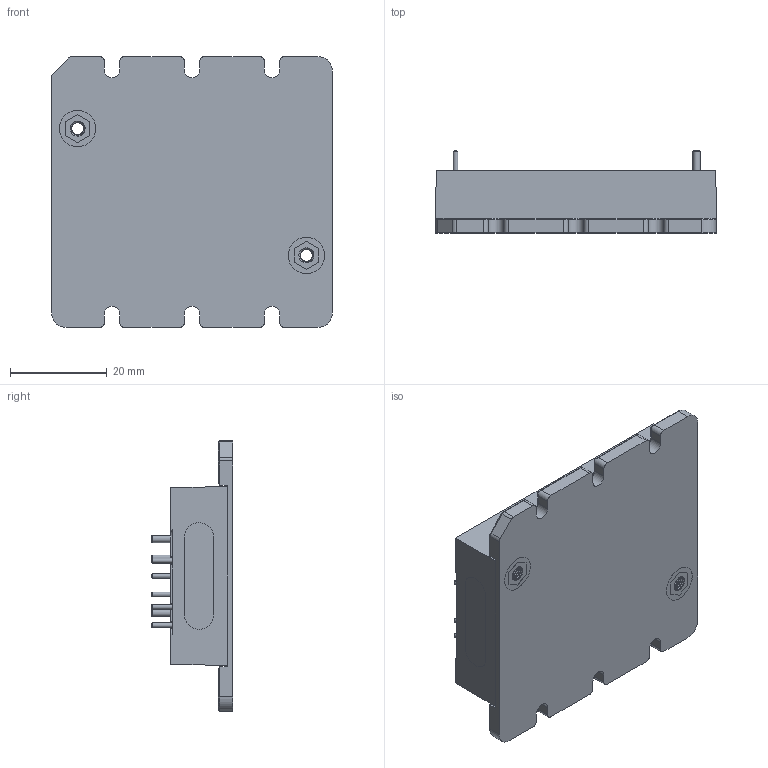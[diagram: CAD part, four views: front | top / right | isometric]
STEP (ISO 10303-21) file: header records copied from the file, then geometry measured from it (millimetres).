
FILE_DESCRIPTION (( 'STEP AP203' ), '1' );
FILE_NAME ('CQB75-300S-F 2024.11.14.STEP', '2024-11-14T02:54:09', ( '' ), ( '' ), 'SwSTEP 2.0', 'SolidWorks 2020', '' );
FILE_SCHEMA (( 'CONFIG_CONTROL_DESIGN' ));
Length unit declared in the file: millimetre
Products named in the file (1): CQB75-300S-F 2024.11.14
Bounding box: 57.9 x 16.9 x 55.88 mm (x, y, z)
Volume: 29820.6 mm3; surface area: 9892.1 mm2
Topology: 1 solids, 3 shells, 554 faces, 1418 edges, 936 vertices
Faces by surface type: plane 347, bspline 127, cylinder 55, cone 25
Full cylindrical faces by diameter (mm): 1 x6, 1.15 x6, 1.5 x2, 1.65 x2, 4 x2, 4.3 x4, 4.7 x2, 7.5 x2
Entity records: 27856 total; most frequent: CARTESIAN_POINT 15410, ORIENTED_EDGE 2732, DIRECTION 2063, EDGE_CURVE 1366, LINE 937, VECTOR 937, VERTEX_POINT 924, EDGE_LOOP 668
